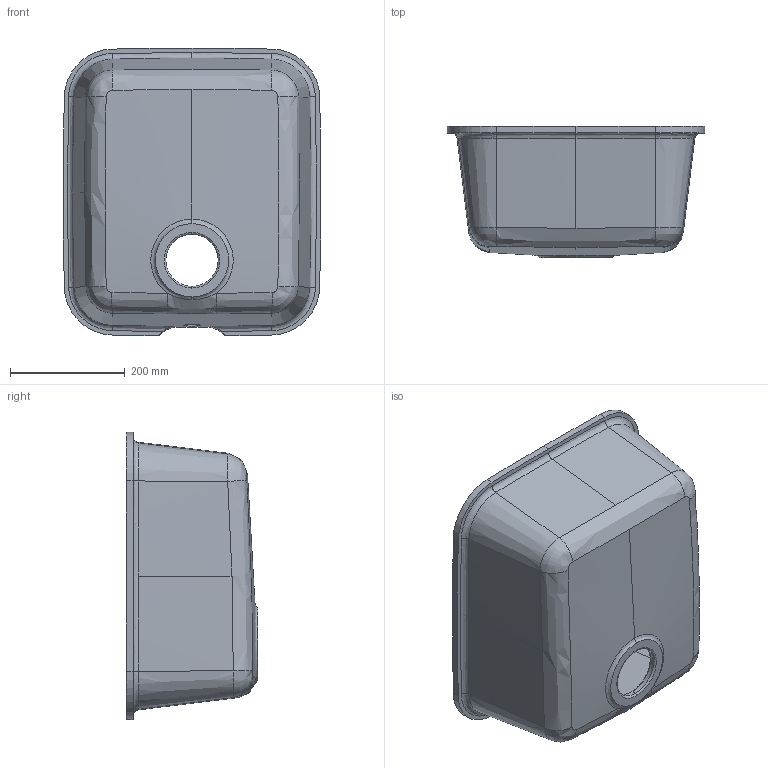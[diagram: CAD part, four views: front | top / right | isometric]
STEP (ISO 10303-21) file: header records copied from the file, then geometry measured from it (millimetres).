
FILE_DESCRIPTION (( 'STEP AP214' ), '1' );
FILE_NAME ('SWEET 805_OVFL.STEP', '2020-02-04T09:17:56', ( '' ), ( '' ), 'SwSTEP 2.0', 'SolidWorks 2014', '' );
FILE_SCHEMA (( 'AUTOMOTIVE_DESIGN' ));
Length unit declared in the file: millimetre
Products named in the file (1): SWEET 805_OVFL
Bounding box: 449.07 x 229.17 x 501.25 mm (x, y, z)
Volume: 5249707.4 mm3; surface area: 961023.9 mm2
Topology: 1 solids, 1 shells, 87 faces, 221 edges, 135 vertices
Faces by surface type: bspline 40, cone 30, cylinder 12, plane 5
Entity records: 7306 total; most frequent: CARTESIAN_POINT 4470, ORIENTED_EDGE 442, DIRECTION 335, EDGE_CURVE 221, AXIS2_PLACEMENT_3D 148, VERTEX_POINT 135, CIRCLE 100, EDGE_LOOP 90
